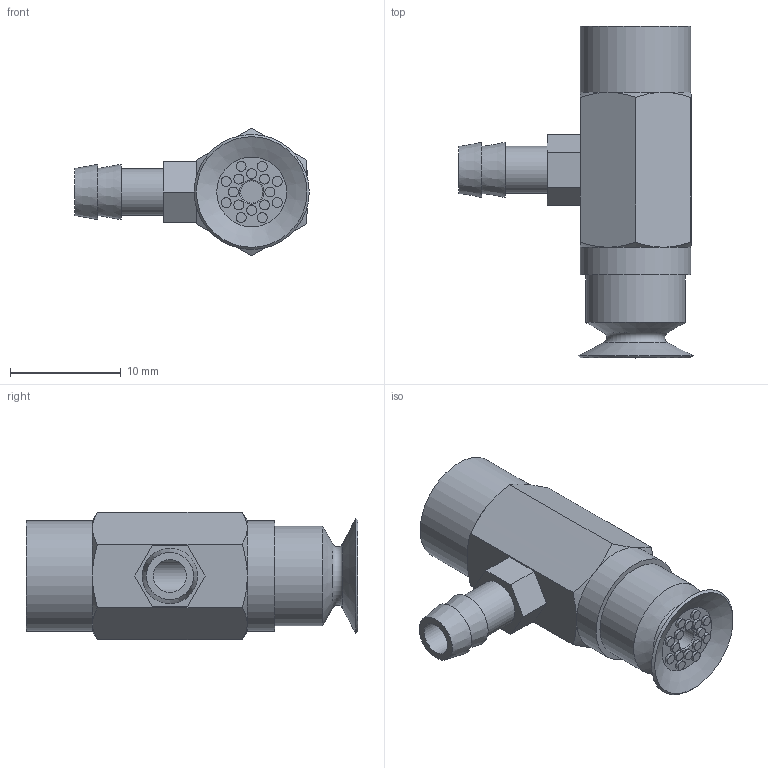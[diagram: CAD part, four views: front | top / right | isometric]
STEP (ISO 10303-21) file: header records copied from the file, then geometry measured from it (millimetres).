
FILE_DESCRIPTION(('STEP AP203'),'1');
FILE_NAME('.stp','2024-08-09T01:46:40',(' '),(' '),'Spatial InterOp 3D',' ',' ');
FILE_SCHEMA(('CONFIG_CONTROL_DESIGN'));
Length unit declared in the file: millimetre
Products named in the file (3): BBPAYK-10A-※; BPAYK-10A; BPAG-10A-※
Assembly tree (2 placements, depth 2):
  BBPAYK-10A-※
    BPAYK-10A
    BPAG-10A-※
Bounding box: 21.21 x 30 x 11.55 mm (x, y, z)
Volume: 2142 mm3; surface area: 2082.2 mm2
Topology: 2 solids, 2 shells, 105 faces, 201 edges, 125 vertices
Faces by surface type: plane 44, cylinder 30, cone 21, torus 10
Full cylindrical faces by diameter (mm): 0.9 x16, 2 x1, 3 x2, 3.242 x1, 4 x2, 4.26 x1, 5 x1, 6 x2, 9 x1, 10 x2
Entity records: 2682 total; most frequent: CARTESIAN_POINT 636, DIRECTION 418, ORIENTED_EDGE 284, AXIS2_PLACEMENT_3D 196, EDGE_LOOP 181, FACE_OUTER_BOUND 143, EDGE_CURVE 142, VERTEX_POINT 116
